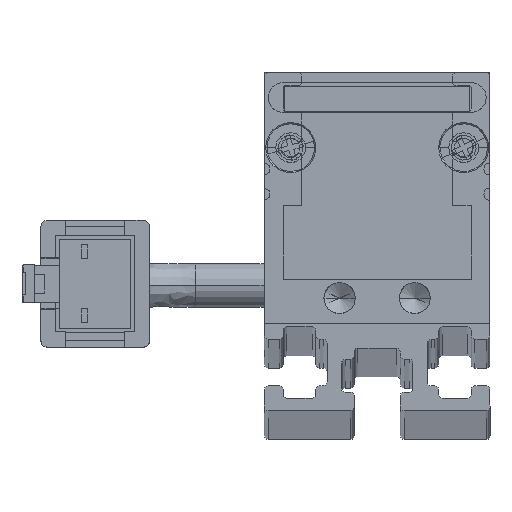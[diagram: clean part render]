
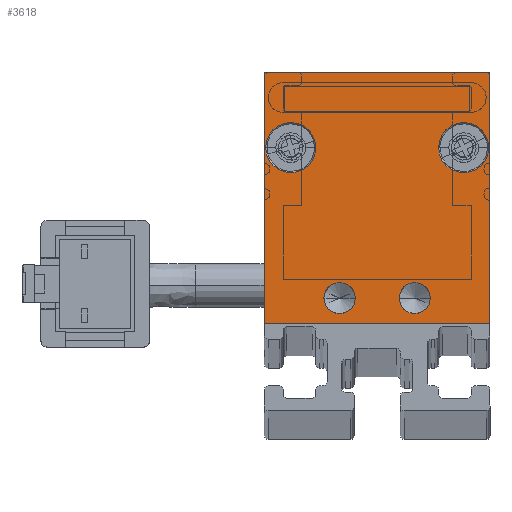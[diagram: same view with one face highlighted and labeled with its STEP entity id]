
A CAD part, top view. The second image highlights one B-rep face of the part: STEP entity #3618.
In plain terms, the highlighted planar face has unit normal (0, 0, 1) as drawn and (0, 0, -1) by its records, which use the part's own axes.
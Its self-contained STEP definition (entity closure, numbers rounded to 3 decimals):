
#7 = CARTESIAN_POINT ( 'NONE',  ( -4.25, 2., -2.5 ) ) ;
#120 = VECTOR ( 'NONE', #8839, 1000. ) ;
#144 = VERTEX_POINT ( 'NONE', #10442 ) ;
#152 = ORIENTED_EDGE ( 'NONE', *, *, #8239, .F. ) ;
#447 = FACE_BOUND ( 'NONE', #10968, .T. ) ;
#483 = VERTEX_POINT ( 'NONE', #3959 ) ;
#515 = DIRECTION ( 'NONE',  ( 0., 0., -1. ) ) ;
#518 = VERTEX_POINT ( 'NONE', #11023 ) ;
#676 = DIRECTION ( 'NONE',  ( 0., 0., -1. ) ) ;
#741 = EDGE_CURVE ( 'NONE', #8115, #2238, #9887, .T. ) ;
#921 = EDGE_CURVE ( 'NONE', #518, #6086, #11486, .T. ) ;
#1005 = ORIENTED_EDGE ( 'NONE', *, *, #741, .F. ) ;
#1115 = DIRECTION ( 'NONE',  ( -1., 0., 0. ) ) ;
#1186 = ORIENTED_EDGE ( 'NONE', *, *, #5908, .F. ) ;
#1341 = DIRECTION ( 'NONE',  ( -1., 0., 0. ) ) ;
#1761 = ORIENTED_EDGE ( 'NONE', *, *, #4095, .F. ) ;
#1932 = AXIS2_PLACEMENT_3D ( 'NONE', #4254, #11958, #3474 ) ;
#1978 = ORIENTED_EDGE ( 'NONE', *, *, #8171, .F. ) ;
#2056 = DIRECTION ( 'NONE',  ( -1., 0., 0. ) ) ;
#2118 = LINE ( 'NONE', #5989, #120 ) ;
#2238 = VERTEX_POINT ( 'NONE', #7986 ) ;
#2307 = EDGE_CURVE ( 'NONE', #4426, #4828, #4552, .T. ) ;
#2501 = ORIENTED_EDGE ( 'NONE', *, *, #10309, .F. ) ;
#2509 = FACE_BOUND ( 'NONE', #9225, .T. ) ;
#2515 = DIRECTION ( 'NONE',  ( -1., 0., 0. ) ) ;
#2607 = AXIS2_PLACEMENT_3D ( 'NONE', #9241, #4427, #2515 ) ;
#2708 = ORIENTED_EDGE ( 'NONE', *, *, #4631, .F. ) ;
#2988 = AXIS2_PLACEMENT_3D ( 'NONE', #10733, #9780, #1115 ) ;
#3212 = AXIS2_PLACEMENT_3D ( 'NONE', #9093, #5101, #2056 ) ;
#3265 = EDGE_CURVE ( 'NONE', #2238, #8115, #8619, .T. ) ;
#3398 = CARTESIAN_POINT ( 'NONE',  ( -1.75, 2., -2.5 ) ) ;
#3449 = EDGE_LOOP ( 'NONE', ( #1005, #9761 ) ) ;
#3474 = DIRECTION ( 'NONE',  ( -1., 0., 0. ) ) ;
#3618 = ADVANCED_FACE ( 'NONE', ( #7103, #2509, #4418, #447, #5368 ), #12059, .F. ) ;
#3624 = CARTESIAN_POINT ( 'NONE',  ( -9., 20., -2.5 ) ) ;
#3959 = CARTESIAN_POINT ( 'NONE',  ( -9., 20., -2.5 ) ) ;
#3994 = ORIENTED_EDGE ( 'NONE', *, *, #2307, .F. ) ;
#4095 = EDGE_CURVE ( 'NONE', #7129, #5343, #9920, .T. ) ;
#4189 = VECTOR ( 'NONE', #7547, 1000. ) ;
#4254 = CARTESIAN_POINT ( 'NONE',  ( -6.9, 14., -2.5 ) ) ;
#4331 = DIRECTION ( 'NONE',  ( 1., 0., 0. ) ) ;
#4418 = FACE_BOUND ( 'NONE', #3449, .T. ) ;
#4426 = VERTEX_POINT ( 'NONE', #6741 ) ;
#4427 = DIRECTION ( 'NONE',  ( 0., 0., -1. ) ) ;
#4552 = CIRCLE ( 'NONE', #1932, 2. ) ;
#4631 = EDGE_CURVE ( 'NONE', #144, #483, #5720, .T. ) ;
#4828 = VERTEX_POINT ( 'NONE', #6997 ) ;
#4946 = EDGE_CURVE ( 'NONE', #6086, #518, #10669, .T. ) ;
#5101 = DIRECTION ( 'NONE',  ( 0., 0., -1. ) ) ;
#5264 = DIRECTION ( 'NONE',  ( 0., 0., -1. ) ) ;
#5343 = VERTEX_POINT ( 'NONE', #12127 ) ;
#5368 = FACE_OUTER_BOUND ( 'NONE', #6539, .T. ) ;
#5720 = LINE ( 'NONE', #5778, #4189 ) ;
#5763 = AXIS2_PLACEMENT_3D ( 'NONE', #10213, #676, #10036 ) ;
#5778 = CARTESIAN_POINT ( 'NONE',  ( -9., 20., -2.5 ) ) ;
#5908 = EDGE_CURVE ( 'NONE', #9705, #9484, #6016, .T. ) ;
#5989 = CARTESIAN_POINT ( 'NONE',  ( 9., 20., -2.5 ) ) ;
#6016 = CIRCLE ( 'NONE', #7835, 1.25 ) ;
#6068 = CARTESIAN_POINT ( 'NONE',  ( 1.75, 2., -2.5 ) ) ;
#6086 = VERTEX_POINT ( 'NONE', #11614 ) ;
#6139 = DIRECTION ( 'NONE',  ( 1., 0., 0. ) ) ;
#6191 = VECTOR ( 'NONE', #10390, 1000. ) ;
#6205 = AXIS2_PLACEMENT_3D ( 'NONE', #11179, #8031, #6139 ) ;
#6487 = EDGE_CURVE ( 'NONE', #4828, #4426, #10458, .T. ) ;
#6539 = EDGE_LOOP ( 'NONE', ( #2501, #2708, #1978, #1761 ) ) ;
#6741 = CARTESIAN_POINT ( 'NONE',  ( -4.9, 14., -2.5 ) ) ;
#6997 = CARTESIAN_POINT ( 'NONE',  ( -8.9, 14., -2.5 ) ) ;
#7103 = FACE_BOUND ( 'NONE', #10005, .T. ) ;
#7129 = VERTEX_POINT ( 'NONE', #11207 ) ;
#7547 = DIRECTION ( 'NONE',  ( -1., 0., 0. ) ) ;
#7550 = LINE ( 'NONE', #3624, #6191 ) ;
#7835 = AXIS2_PLACEMENT_3D ( 'NONE', #11636, #8806, #8686 ) ;
#7979 = ORIENTED_EDGE ( 'NONE', *, *, #921, .F. ) ;
#7986 = CARTESIAN_POINT ( 'NONE',  ( 4.25, 2., -2.5 ) ) ;
#8020 = AXIS2_PLACEMENT_3D ( 'NONE', #10999, #515, #1341 ) ;
#8031 = DIRECTION ( 'NONE',  ( 0., 0., 1. ) ) ;
#8115 = VERTEX_POINT ( 'NONE', #6068 ) ;
#8171 = EDGE_CURVE ( 'NONE', #5343, #144, #2118, .T. ) ;
#8239 = EDGE_CURVE ( 'NONE', #9484, #9705, #8803, .T. ) ;
#8241 = VECTOR ( 'NONE', #4331, 1000. ) ;
#8356 = DIRECTION ( 'NONE',  ( -1., 0., 0. ) ) ;
#8619 = CIRCLE ( 'NONE', #8020, 1.25 ) ;
#8686 = DIRECTION ( 'NONE',  ( -1., 0., 0. ) ) ;
#8803 = CIRCLE ( 'NONE', #5763, 1.25 ) ;
#8806 = DIRECTION ( 'NONE',  ( 0., 0., -1. ) ) ;
#8839 = DIRECTION ( 'NONE',  ( 0., 1., 0. ) ) ;
#9093 = CARTESIAN_POINT ( 'NONE',  ( 6.9, 14., -2.5 ) ) ;
#9225 = EDGE_LOOP ( 'NONE', ( #9894, #3994 ) ) ;
#9241 = CARTESIAN_POINT ( 'NONE',  ( 3., 2., -2.5 ) ) ;
#9484 = VERTEX_POINT ( 'NONE', #7 ) ;
#9705 = VERTEX_POINT ( 'NONE', #3398 ) ;
#9761 = ORIENTED_EDGE ( 'NONE', *, *, #3265, .F. ) ;
#9780 = DIRECTION ( 'NONE',  ( 0., 0., -1. ) ) ;
#9887 = CIRCLE ( 'NONE', #2607, 1.25 ) ;
#9894 = ORIENTED_EDGE ( 'NONE', *, *, #6487, .F. ) ;
#9920 = LINE ( 'NONE', #10162, #8241 ) ;
#10005 = EDGE_LOOP ( 'NONE', ( #11623, #7979 ) ) ;
#10036 = DIRECTION ( 'NONE',  ( -1., 0., 0. ) ) ;
#10162 = CARTESIAN_POINT ( 'NONE',  ( -9., 0., -2.5 ) ) ;
#10213 = CARTESIAN_POINT ( 'NONE',  ( -3., 2., -2.5 ) ) ;
#10309 = EDGE_CURVE ( 'NONE', #483, #7129, #7550, .T. ) ;
#10390 = DIRECTION ( 'NONE',  ( 0., -1., 0. ) ) ;
#10442 = CARTESIAN_POINT ( 'NONE',  ( 9., 20., -2.5 ) ) ;
#10458 = CIRCLE ( 'NONE', #2988, 2. ) ;
#10471 = AXIS2_PLACEMENT_3D ( 'NONE', #11259, #5264, #8356 ) ;
#10669 = CIRCLE ( 'NONE', #10471, 2. ) ;
#10733 = CARTESIAN_POINT ( 'NONE',  ( -6.9, 14., -2.5 ) ) ;
#10968 = EDGE_LOOP ( 'NONE', ( #152, #1186 ) ) ;
#10999 = CARTESIAN_POINT ( 'NONE',  ( 3., 2., -2.5 ) ) ;
#11023 = CARTESIAN_POINT ( 'NONE',  ( 8.9, 14., -2.5 ) ) ;
#11179 = CARTESIAN_POINT ( 'NONE',  ( 0., 0., -2.5 ) ) ;
#11207 = CARTESIAN_POINT ( 'NONE',  ( -9., 0., -2.5 ) ) ;
#11259 = CARTESIAN_POINT ( 'NONE',  ( 6.9, 14., -2.5 ) ) ;
#11486 = CIRCLE ( 'NONE', #3212, 2. ) ;
#11614 = CARTESIAN_POINT ( 'NONE',  ( 4.9, 14., -2.5 ) ) ;
#11623 = ORIENTED_EDGE ( 'NONE', *, *, #4946, .F. ) ;
#11636 = CARTESIAN_POINT ( 'NONE',  ( -3., 2., -2.5 ) ) ;
#11958 = DIRECTION ( 'NONE',  ( 0., 0., -1. ) ) ;
#12059 = PLANE ( 'NONE',  #6205 ) ;
#12127 = CARTESIAN_POINT ( 'NONE',  ( 9., 0., -2.5 ) ) ;
